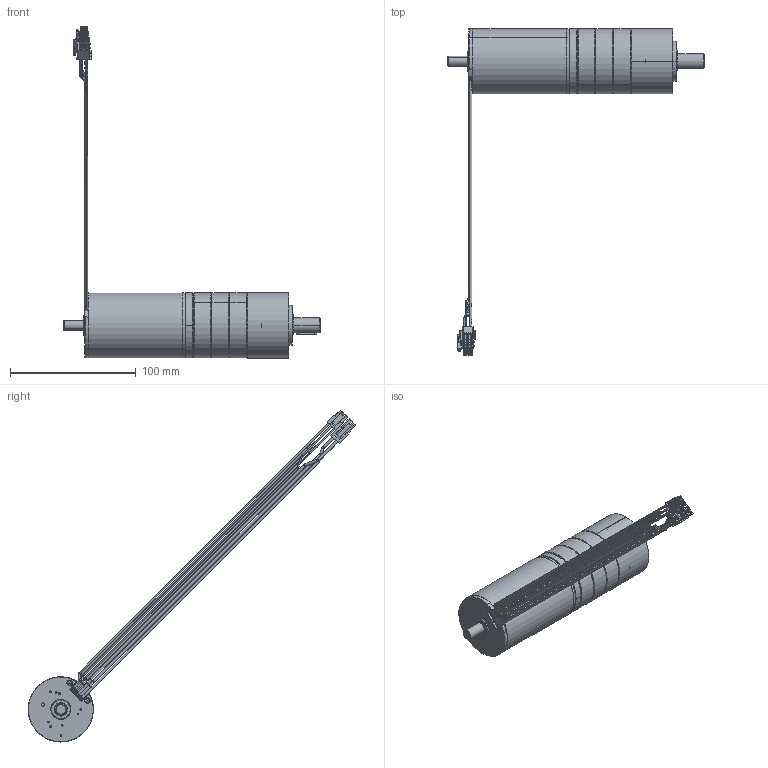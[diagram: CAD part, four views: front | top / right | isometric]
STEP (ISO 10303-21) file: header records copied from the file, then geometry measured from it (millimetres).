
FILE_DESCRIPTION (( 'STEP AP214' ), '1' );
FILE_NAME ('ECI52_+_PM52 - 3etages.STEP', '2016-12-15T15:24:52', ( '' ), ( '' ), 'SwSTEP 2.0', 'SolidWorks 2015', '' );
FILE_SCHEMA (( 'AUTOMOTIVE_DESIGN' ));
Length unit declared in the file: millimetre
Products named in the file (18): eci52; PM52_3 etages; PM52 pour EC45Flat-70W_3 etages; Cotﾚ moteur^PM52 pour EC45Flat-70W; Cotﾚ sortie^PM52 pour EC45Flat-70W; SCHRAUBE_1241978_6; 4X4X16_D6885A_2; D471_12X1_5_2; 8102168_ABTRIEB_LK1_KPL_2; GK2152_POS31_2_LAGERBOLZEN_2; 8101171_ABTRIEB_ROHTEIL_AF0_2; DIN998_PS_12X18X1_2; D625-6001-2RS_2; 8006231_LAGERFLANSCH_2; 8006230_ZAHNKRANZ_Z46_2; 8006405_DICHTRING_2; MOTORFLANSCH_1248336; ECI52_+_PM52 - 3etages
Assembly tree (29 placements, depth 6):
  ECI52_+_PM52 - 3etages
    MOTORFLANSCH_1248336
    PM52_3 etages
      PM52 pour EC45Flat-70W_3 etages
        8006405_DICHTRING_2  x2
        8006230_ZAHNKRANZ_Z46_2  x3
        Cotﾚ sortie^PM52 pour EC45Flat-70W
          8006231_LAGERFLANSCH_2
          D625-6001-2RS_2  x2
          DIN998_PS_12X18X1_2  x2
          8102168_ABTRIEB_LK1_KPL_2
            8101171_ABTRIEB_ROHTEIL_AF0_2
            GK2152_POS31_2_LAGERBOLZEN_2  x3
          D471_12X1_5_2
          4X4X16_D6885A_2
          8006405_DICHTRING_2
          SCHRAUBE_1241978_6  x4
        Cotﾚ moteur^PM52 pour EC45Flat-70W
          8006405_DICHTRING_2
    eci52
Bounding box: 204.2 x 261.02 x 264.54 mm (x, y, z)
Volume: 231568.5 mm3; surface area: 111604.3 mm2
Topology: 21 solids, 43 shells, 1894 faces, 5012 edges, 3210 vertices
Faces by surface type: plane 830, cylinder 764, cone 163, bspline 89, torus 48
Entity records: 74386 total; most frequent: CARTESIAN_POINT 29580, DIRECTION 6751, ORIENTED_EDGE 6712, EDGE_CURVE 3376, AXIS2_PLACEMENT_3D 2386, VERTEX_POINT 2156, LINE 1979, VECTOR 1979
